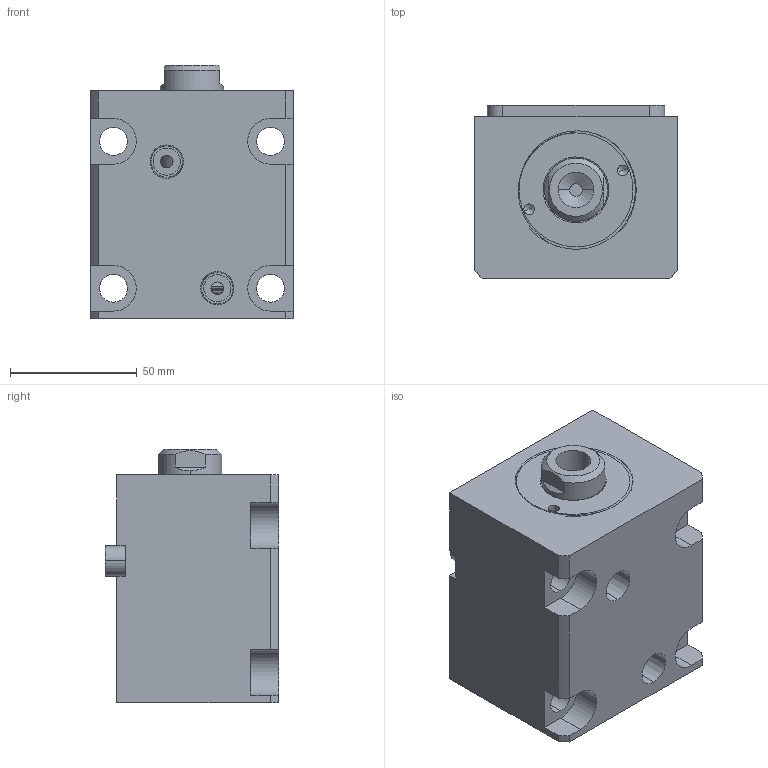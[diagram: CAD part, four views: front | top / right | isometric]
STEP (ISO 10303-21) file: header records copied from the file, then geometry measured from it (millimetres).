
FILE_DESCRIPTION (( 'STEP AP214' ), '1' );
FILE_NAME ('chtb-la40x35n_asm.STEP', '2018-05-31T01:49:33', ( 'Windows' ), ( 'Microsoft' ), 'SwSTEP 2.0', 'SolidWorks 2015', '' );
FILE_SCHEMA (( 'AUTOMOTIVE_DESIGN' ));
Length unit declared in the file: millimetre
Products named in the file (5): CHTB-LA40PJ; CHTB-SD40QG; CHTB-SD40X35NHSG; CHTB-LA40X35NBT; chtb-la40x35n_asm
Assembly tree (4 placements, depth 2):
  chtb-la40x35n_asm
    CHTB-LA40X35NBT
    CHTB-SD40X35NHSG
    CHTB-SD40QG
    CHTB-LA40PJ
Bounding box: 80 x 68.5 x 100 mm (x, y, z)
Volume: 395933.4 mm3; surface area: 81990.1 mm2
Topology: 4 solids, 4 shells, 160 faces, 430 edges, 286 vertices
Faces by surface type: cylinder 73, plane 48, bspline 14, cone 13, torus 12
Entity records: 10258 total; most frequent: CARTESIAN_POINT 6106, ORIENTED_EDGE 848, DIRECTION 787, EDGE_CURVE 424, AXIS2_PLACEMENT_3D 314, VERTEX_POINT 286, EDGE_LOOP 188, CIRCLE 161
